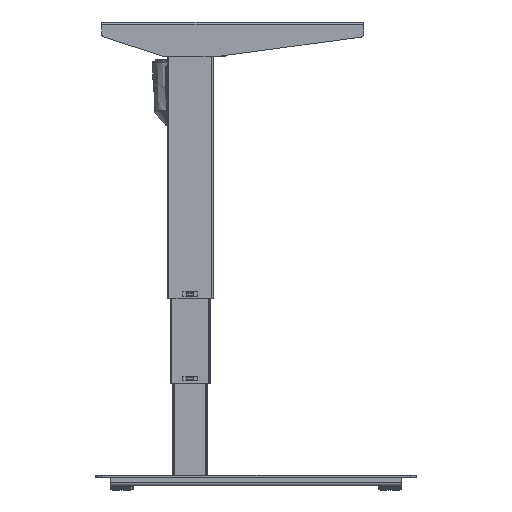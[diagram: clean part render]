
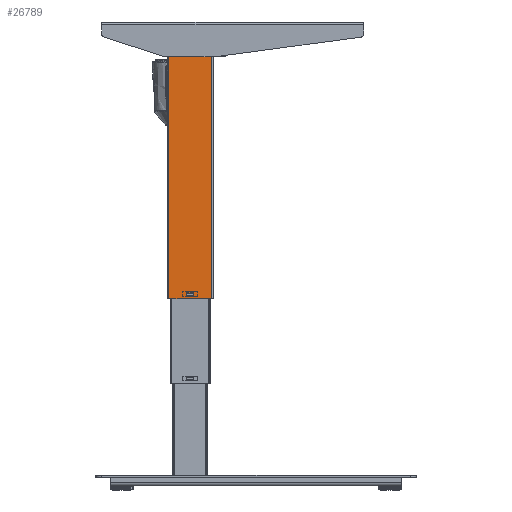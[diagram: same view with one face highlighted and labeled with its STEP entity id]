
A CAD part, left-side view. The second image highlights one B-rep face of the part: STEP entity #26789.
In plain terms, the highlighted planar face has unit normal (-1, 0, 0).
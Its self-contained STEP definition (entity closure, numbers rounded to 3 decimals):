
#135 = DIRECTION ( 'NONE',  ( 0., 0., 1. ) ) ;
#462 = ORIENTED_EDGE ( 'NONE', *, *, #51461, .T. ) ;
#1753 = CARTESIAN_POINT ( 'NONE',  ( -30., -37., 480. ) ) ;
#5311 = VERTEX_POINT ( 'NONE', #52918 ) ;
#5836 = VERTEX_POINT ( 'NONE', #68445 ) ;
#8503 = DIRECTION ( 'NONE',  ( 0., 1., 0. ) ) ;
#9276 = VECTOR ( 'NONE', #50648, 1000. ) ;
#9815 = LINE ( 'NONE', #1753, #50094 ) ;
#10245 = EDGE_CURVE ( 'NONE', #51742, #5836, #13956, .T. ) ;
#10322 = LINE ( 'NONE', #32724, #40355 ) ;
#11839 = CARTESIAN_POINT ( 'NONE',  ( -30., -40., 475. ) ) ;
#11869 = DIRECTION ( 'NONE',  ( 0., -1., 0. ) ) ;
#12070 = DIRECTION ( 'NONE',  ( 1., 0., 0. ) ) ;
#13956 = LINE ( 'NONE', #49179, #44792 ) ;
#15176 = VERTEX_POINT ( 'NONE', #46097 ) ;
#15492 = CARTESIAN_POINT ( 'NONE',  ( -30., -37., 475. ) ) ;
#15994 = ORIENTED_EDGE ( 'NONE', *, *, #59954, .T. ) ;
#16026 = VERTEX_POINT ( 'NONE', #39179 ) ;
#16653 = EDGE_CURVE ( 'NONE', #43302, #16026, #9815, .T. ) ;
#16925 = VECTOR ( 'NONE', #11869, 1000. ) ;
#17966 = AXIS2_PLACEMENT_3D ( 'NONE', #29610, #12070, #23363 ) ;
#19453 = ORIENTED_EDGE ( 'NONE', *, *, #10245, .T. ) ;
#21548 = DIRECTION ( 'NONE',  ( 0., 0., -1. ) ) ;
#21955 = EDGE_CURVE ( 'NONE', #5311, #15176, #10322, .T. ) ;
#22140 = LINE ( 'NONE', #11839, #9276 ) ;
#23363 = DIRECTION ( 'NONE',  ( 0., 1., 0. ) ) ;
#24658 = ORIENTED_EDGE ( 'NONE', *, *, #16653, .F. ) ;
#25030 = LINE ( 'NONE', #48476, #59264 ) ;
#25215 = CARTESIAN_POINT ( 'NONE',  ( -30., 37., 0. ) ) ;
#26559 = VECTOR ( 'NONE', #31463, 1000. ) ;
#26789 = ADVANCED_FACE ( 'NONE', ( #36506, #40772 ), #45134, .F. ) ;
#29446 = LINE ( 'NONE', #46356, #62892 ) ;
#29610 = CARTESIAN_POINT ( 'NONE',  ( -30., 37., 480. ) ) ;
#31463 = DIRECTION ( 'NONE',  ( 0., 0., -1. ) ) ;
#31833 = CARTESIAN_POINT ( 'NONE',  ( -30., 37., 475. ) ) ;
#32002 = ORIENTED_EDGE ( 'NONE', *, *, #35136, .T. ) ;
#32724 = CARTESIAN_POINT ( 'NONE',  ( -30., 6., 10. ) ) ;
#33264 = CARTESIAN_POINT ( 'NONE',  ( -30., 6., 10. ) ) ;
#34271 = LINE ( 'NONE', #64255, #26559 ) ;
#35136 = EDGE_CURVE ( 'NONE', #52580, #40229, #34271, .T. ) ;
#35761 = EDGE_LOOP ( 'NONE', ( #70552, #44904, #19453, #67561 ) ) ;
#36506 = FACE_BOUND ( 'NONE', #35761, .T. ) ;
#37519 = LINE ( 'NONE', #33264, #16925 ) ;
#39179 = CARTESIAN_POINT ( 'NONE',  ( -30., -37., 0. ) ) ;
#39423 = EDGE_CURVE ( 'NONE', #15176, #51742, #37519, .T. ) ;
#40229 = VERTEX_POINT ( 'NONE', #25215 ) ;
#40355 = VECTOR ( 'NONE', #135, 1000. ) ;
#40427 = CARTESIAN_POINT ( 'NONE',  ( -30., -6., 10. ) ) ;
#40772 = FACE_OUTER_BOUND ( 'NONE', #66454, .T. ) ;
#43204 = DIRECTION ( 'NONE',  ( 0., -1., 0. ) ) ;
#43302 = VERTEX_POINT ( 'NONE', #15492 ) ;
#43603 = EDGE_CURVE ( 'NONE', #5836, #5311, #29446, .T. ) ;
#44792 = VECTOR ( 'NONE', #48709, 1000. ) ;
#44904 = ORIENTED_EDGE ( 'NONE', *, *, #39423, .T. ) ;
#45134 = PLANE ( 'NONE',  #17966 ) ;
#46097 = CARTESIAN_POINT ( 'NONE',  ( -30., 6., 10. ) ) ;
#46356 = CARTESIAN_POINT ( 'NONE',  ( -30., 6., 6. ) ) ;
#48476 = CARTESIAN_POINT ( 'NONE',  ( -30., 37., 0. ) ) ;
#48709 = DIRECTION ( 'NONE',  ( 0., 0., -1. ) ) ;
#49179 = CARTESIAN_POINT ( 'NONE',  ( -30., -6., 10. ) ) ;
#50094 = VECTOR ( 'NONE', #21548, 1000. ) ;
#50648 = DIRECTION ( 'NONE',  ( 0., 1., 0. ) ) ;
#51461 = EDGE_CURVE ( 'NONE', #43302, #52580, #22140, .T. ) ;
#51742 = VERTEX_POINT ( 'NONE', #40427 ) ;
#52580 = VERTEX_POINT ( 'NONE', #31833 ) ;
#52918 = CARTESIAN_POINT ( 'NONE',  ( -30., 6., 6. ) ) ;
#59264 = VECTOR ( 'NONE', #43204, 1000. ) ;
#59954 = EDGE_CURVE ( 'NONE', #40229, #16026, #25030, .T. ) ;
#62892 = VECTOR ( 'NONE', #8503, 1000. ) ;
#64255 = CARTESIAN_POINT ( 'NONE',  ( -30., 37., 480. ) ) ;
#66454 = EDGE_LOOP ( 'NONE', ( #24658, #462, #32002, #15994 ) ) ;
#67561 = ORIENTED_EDGE ( 'NONE', *, *, #43603, .T. ) ;
#68445 = CARTESIAN_POINT ( 'NONE',  ( -30., -6., 6. ) ) ;
#70552 = ORIENTED_EDGE ( 'NONE', *, *, #21955, .T. ) ;
